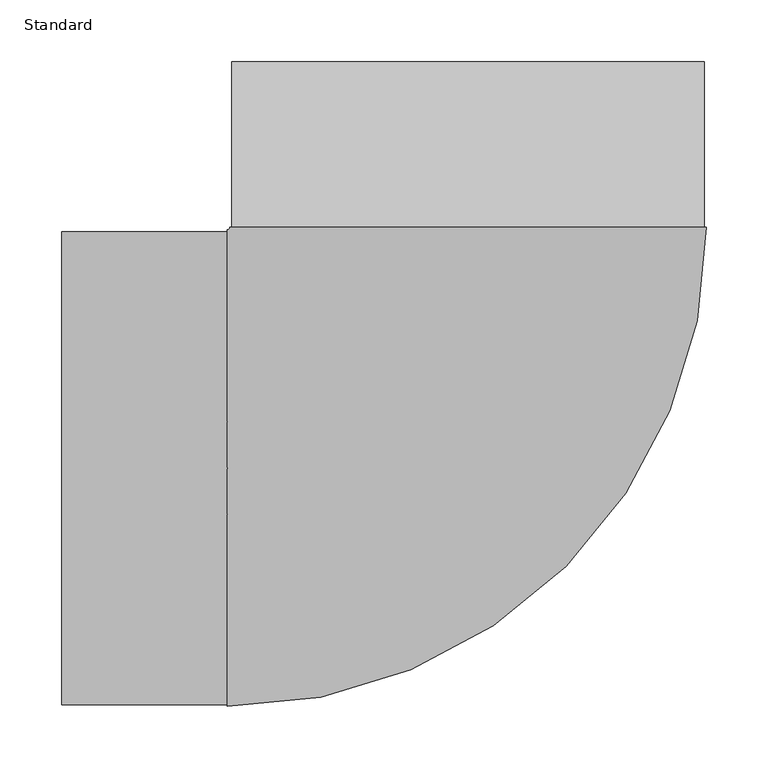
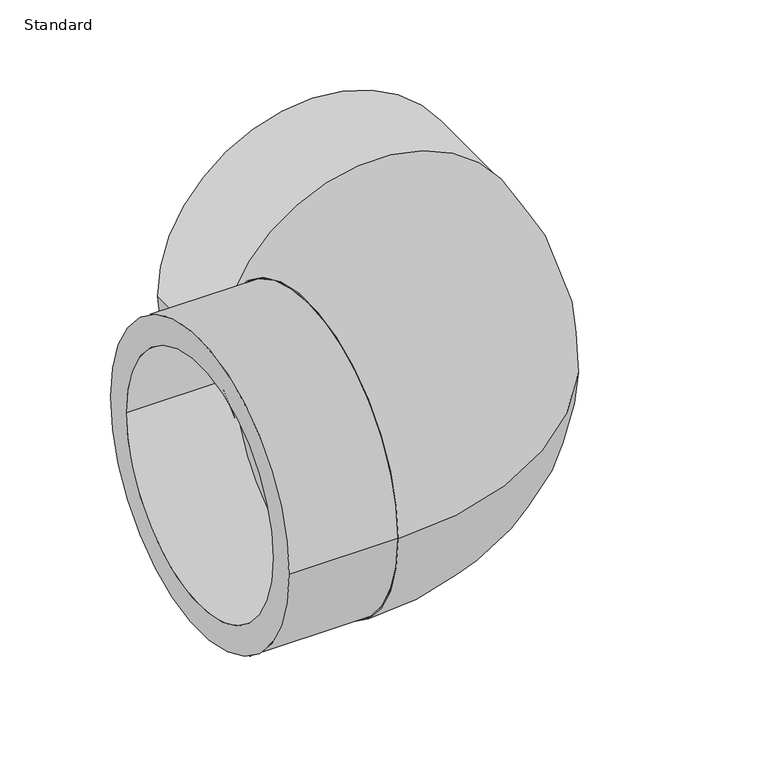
"""IFC4 building model written with IfcOpenShell, lengths in millimetres: pipe fitting geometry, EGB_VASEN_ PPR_Codo a tope 90 WXRB200_Codo a tope 45 WXRB220 : Standard."""

import ifcopenshell
import ifcopenshell.guid

model = None  # the IFC model being written
_history = None  # IfcOwnerHistory: only IFC2X3 demands one
_inside = {}  # id of a spatial element -> (the spatial element, [elements in it])
_under = {}  # id of a project, library or spatial element -> (it, [spatial elements below it])
_declared = {}  # id of a project -> (the project, [libraries it declares])
_typed = {}  # id of a type object -> (the type object, [elements of that type])
_made_of = {}  # id of a material, layer set ... -> (it, [elements and type objects made of it])


def new_model(schema):
    """Start an empty IFC model of exactly this schema.

    Asked for "IFC4X3", IfcOpenShell would pick the latest addendum, in which some entities
    have other attributes; the version numbers below select the first issue.
    IFC2X3 requires an IfcOwnerHistory on every rooted entity: one is made here for all.
    """
    global model, _history
    if schema == "IFC4X3":
        model = ifcopenshell.file(schema_version=(4, 3, 0, 0))
    else:
        model = ifcopenshell.file(schema=schema)
    _inside.clear()
    _under.clear()
    _declared.clear()
    _typed.clear()
    _made_of.clear()
    _history = None
    if model.schema == "IFC2X3":
        org = make("IfcOrganization", Name="unknown")
        user = make(
            "IfcPersonAndOrganization",
            ThePerson=make("IfcPerson", FamilyName="unknown"),
            TheOrganization=org,
        )
        app = make(
            "IfcApplication",
            ApplicationDeveloper=org,
            Version="unknown",
            ApplicationFullName="unknown",
            ApplicationIdentifier="unknown",
        )
        _history = make(
            "IfcOwnerHistory",
            OwningUser=user,
            OwningApplication=app,
            ChangeAction="ADDED",
            CreationDate=0,
        )
    return model


def make(cls, **values):
    """One entity of the class cls with the attributes given. An attribute that is None is left unset."""
    return model.create_entity(
        cls, **{name: value for name, value in values.items() if value is not None}
    )


def rooted(cls, **values):
    """An entity with a GlobalId (a new one), such as an element, a storey or a relation."""
    return make(cls, GlobalId=ifcopenshell.guid.new(), OwnerHistory=_history, **values)


def si_unit(unit_type, name, prefix=None):
    """IfcSIUnit, for example si_unit("LENGTHUNIT", "METRE", prefix="MILLI")."""
    return make("IfcSIUnit", UnitType=unit_type, Prefix=prefix, Name=name)


def assignment(units):
    """IfcUnitAssignment: the units of a project."""
    return None if units is None else make("IfcUnitAssignment", Units=units)


def point(xyz):
    """IfcCartesianPoint."""
    return None if xyz is None else make("IfcCartesianPoint", Coordinates=xyz)


def direction(xyz):
    """IfcDirection."""
    return None if xyz is None else make("IfcDirection", DirectionRatios=xyz)


def frame(location, z_axis=None, x_axis=None):
    """IfcAxis2Placement3D, a coordinate frame: its origin and axes. An axis left out is left unset."""
    return make(
        "IfcAxis2Placement3D",
        Location=point(location),
        Axis=direction(z_axis),
        RefDirection=direction(x_axis),
    )


def origin():
    """The frame at (0, 0, 0) with its axes left unset."""
    return frame((0.0, 0.0, 0.0))


def place(relative_to, where):
    """IfcLocalPlacement: puts the frame where relative to a parent placement (None: the world)."""
    return make(
        "IfcLocalPlacement", PlacementRelTo=relative_to, RelativePlacement=where
    )


def context(
    kind, dimensions, precision=None, world=None, true_north=None, identifier=None
):
    """IfcGeometricRepresentationContext, for example the 3D "Model" context."""
    return make(
        "IfcGeometricRepresentationContext",
        ContextIdentifier=identifier,
        ContextType=kind,
        CoordinateSpaceDimension=dimensions,
        Precision=precision,
        WorldCoordinateSystem=world,
        TrueNorth=true_north,
    )


def project(units=None, contexts=None):
    """IfcProject with its units and contexts."""
    return rooted(
        "IfcProject",
        Name="project",
        RepresentationContexts=contexts,
        UnitsInContext=assignment(units),
    )


def spatial(cls, under=None, at=None, **own):
    """A site, building, storey or space (cls), placed at a placement, below another one or the project."""
    s = rooted(cls, ObjectPlacement=at, **own)
    if under is not None:
        _under.setdefault(under.id(), (under, []))[1].append(s)
    return s


def polyline(points):
    """IfcPolyline through the points."""
    return make("IfcPolyline", Points=[point(p) for p in points])


def circle_curve(where, radius):
    """IfcCircle in the frame where."""
    return make("IfcCircle", Position=where, Radius=radius)


def ellipse_curve(where, semi_axis1, semi_axis2):
    """IfcEllipse in the frame where."""
    return make(
        "IfcEllipse", Position=where, SemiAxis1=semi_axis1, SemiAxis2=semi_axis2
    )


def trimmed(basis, trim1, trim2, sense, master):
    """IfcTrimmedCurve: the piece of a basis curve between two trims."""
    return make(
        "IfcTrimmedCurve",
        BasisCurve=basis,
        Trim1=trim1,
        Trim2=trim2,
        SenseAgreement=sense,
        MasterRepresentation=master,
    )


def shape(context_of_items, identifier, shape_type, items):
    """IfcShapeRepresentation: the items that make up one representation, for example the "Body"."""
    return make(
        "IfcShapeRepresentation",
        ContextOfItems=context_of_items,
        RepresentationIdentifier=identifier,
        RepresentationType=shape_type,
        Items=items,
    )


def source(mapping_origin, context_of_items, identifier, shape_type, items):
    """IfcRepresentationMap: a shape defined once, which mapped items show again and again."""
    return make(
        "IfcRepresentationMap",
        MappingOrigin=mapping_origin,
        MappedRepresentation=shape(context_of_items, identifier, shape_type, items),
    )


def transform(
    local_origin,
    x_axis=None,
    y_axis=None,
    z_axis=None,
    scale=None,
    scale2=None,
    scale3=None,
    uniform=True,
):
    """IfcCartesianTransformationOperator3D, or its non-uniform kind. x_axis, y_axis, z_axis: its Axis1, 2, 3."""
    if uniform:
        return make(
            "IfcCartesianTransformationOperator3D",
            Axis1=direction(x_axis),
            Axis2=direction(y_axis),
            LocalOrigin=point(local_origin),
            Scale=scale,
            Axis3=direction(z_axis),
        )
    return make(
        "IfcCartesianTransformationOperator3DnonUniform",
        Axis1=direction(x_axis),
        Axis2=direction(y_axis),
        LocalOrigin=point(local_origin),
        Scale=scale,
        Axis3=direction(z_axis),
        Scale2=scale2,
        Scale3=scale3,
    )


def mapped(mapping_source, mapping_target):
    """IfcMappedItem: shows the shape of a source again, moved by a transform."""
    return make(
        "IfcMappedItem", MappingSource=mapping_source, MappingTarget=mapping_target
    )


def made_of(thing, what):
    """Note that an element or type object is made of a material, layer set ...; save() writes the relation."""
    if what is not None:
        _made_of.setdefault(what.id(), (what, []))[1].append(thing)
    return thing


def element(
    cls,
    number,
    at=None,
    inside=None,
    cuts=None,
    type_object=None,
    material=None,
    context=None,
    identifier="Body",
    shape_type=None,
    held_by="IfcProductDefinitionShape",
    body=None,
    shapes=None,
    **own,
):
    """One element of the class cls, such as IfcWall. Its Tag is "e" and its number.

    at: its placement. inside: the storey or other place that contains it. cuts: it is an
    opening in that element (IfcRelVoidsElement). A single representation is given by context,
    identifier, shape_type and body (its items); several are given by shapes. held_by: the class
    of the entity that holds the representations. save() writes the other relations.
    """
    e = rooted(cls, Tag="e%d" % number, ObjectPlacement=at, **own)
    if body is not None:
        shapes = [shape(context, identifier, shape_type, body)]
    if shapes is not None:
        e.Representation = make(held_by, Representations=shapes)
    if inside is not None:
        _inside.setdefault(inside.id(), (inside, []))[1].append(e)
    if cuts is not None:
        rooted(
            "IfcRelVoidsElement", RelatingBuildingElement=cuts, RelatedOpeningElement=e
        )
    if type_object is not None:
        _typed.setdefault(type_object.id(), (type_object, []))[1].append(e)
    return made_of(e, material)


def aggregate(whole, parts):
    """IfcRelAggregates: a whole, such as a stair, and the parts it consists of."""
    return rooted("IfcRelAggregates", RelatingObject=whole, RelatedObjects=parts)


def save(model, path):
    """Write the relations noted so far, then the file.

    IfcRelAggregates (storeys below a building ...), IfcRelContainedInSpatialStructure (elements
    in a storey), IfcRelDefinesByType, IfcRelAssociatesMaterial and IfcRelDeclares: one each for
    every whole, place, type object, material and project.
    """
    for whole, parts in _under.values():
        aggregate(whole, parts)
    for where, things in _inside.values():
        rooted(
            "IfcRelContainedInSpatialStructure",
            RelatedElements=things,
            RelatingStructure=where,
        )
    for kind, things in _typed.values():
        rooted("IfcRelDefinesByType", RelatedObjects=things, RelatingType=kind)
    for what, things in _made_of.values():
        rooted("IfcRelAssociatesMaterial", RelatedObjects=things, RelatingMaterial=what)
    for by, libraries in _declared.values():
        rooted("IfcRelDeclares", RelatingContext=by, RelatedDefinitions=libraries)
    model.write(path)


def plane_surface(at):
    """IfcPlane: the flat surface through the origin of the frame at, square to its z axis."""
    return make("IfcPlane", Position=at)


def cylinder_surface(at, radius):
    """IfcCylindricalSurface: all points at the distance radius from the z axis of the frame at."""
    return make("IfcCylindricalSurface", Position=at, Radius=radius)


def revolved_surface(curve, axis_point, axis_direction):
    """IfcSurfaceOfRevolution: the curve turned about the line through axis_point along axis_direction."""
    return make(
        "IfcSurfaceOfRevolution",
        SweptCurve=make("IfcArbitraryOpenProfileDef", ProfileType="CURVE", Curve=curve),
        AxisPosition=make("IfcAxis1Placement", Location=point(axis_point), Axis=direction(axis_direction)),
    )


def advanced_brep(points, edges, surfaces, faces):
    """IfcAdvancedBrep: a solid bounded by faces that lie on surfaces and meet in shared edges.

    An edge is (start, end): straight between two places in points (the first is 0);
    or (start, end, curve); or (start, end, curve, False) where it runs against its curve.
    A face is (place in surfaces, loops), or (place, loops, False) where it looks against
    its surface's normal. A loop lists edges by number (the first is 1), with a minus sign
    where the edge is run from its end to its start. The first loop is the outer one.
    """
    corners = [point(p) for p in points]
    vertices = [make("IfcVertexPoint", VertexGeometry=c) for c in corners]
    made = []
    for start, end, *more in edges:
        made.append(
            make(
                "IfcEdgeCurve",
                EdgeStart=vertices[start],
                EdgeEnd=vertices[end],
                EdgeGeometry=more[0] if more else make("IfcPolyline", Points=[corners[start], corners[end]]),
                SameSense=more[1] if len(more) > 1 else True,
            )
        )
    hull = []
    for where, loops, *sense in faces:
        bounds = []
        for j, loop in enumerate(loops):
            ring = [make("IfcOrientedEdge", EdgeElement=made[abs(k) - 1], Orientation=k > 0) for k in loop]
            bounds.append(
                make(
                    "IfcFaceOuterBound" if j == 0 else "IfcFaceBound",
                    Bound=make("IfcEdgeLoop", EdgeList=ring),
                    Orientation=True,
                )
            )
        hull.append(make("IfcAdvancedFace", Bounds=bounds, FaceSurface=surfaces[where], SameSense=sense[0] if sense else True))
    return make("IfcAdvancedBrep", Outer=make("IfcClosedShell", CfsFaces=hull))


def standard_4de2b88c(model_context):
    return source(origin(), model_context, "Body", "AdvancedBrep", [
        advanced_brep(
        [(-330.0, -192.0, 0.0), (-330.0, 192.0, 0.0), (-330.0, -157.5, 0.0), (-330.0, 157.5, 0.0), (-195.5, -192.0, 0.0), (-195.5, 192.0, 0.0), (-195.5, -157.5, 0.0), (-195.5, 157.5, 0.0), (-195.5, -193.5, 0.0), (-195.5, 193.5, 0.0), (193.5, 195.5, 0.0), (-193.5, 195.5, 0.0), (192.0, 195.5, 0.0), (-192.0, 195.5, 0.0), (157.5, 195.5, 0.0), (-157.5, 195.5, 0.0), (192.0, 330.0, 0.0), (-192.0, 330.0, 0.0), (157.5, 330.0, 0.0), (-157.5, 330.0, 0.0)],
        [
            (0, 1, circle_curve(frame((-330.0, 0.0, 0.0), z_axis=(-1.0, 0.0, 0.0), x_axis=(0.0, 1.0, 0.0)), 192.0)),
            (1, 0, circle_curve(frame((-330.0, 0.0, 0.0), z_axis=(-1.0, 0.0, 0.0), x_axis=(0.0, 1.0, 0.0)), 192.0)),
            (2, 3, circle_curve(frame((-330.0, 0.0, 0.0), z_axis=(1.0, 0.0, 0.0), x_axis=(0.0, 1.0, 0.0)), 157.5)),
            (3, 2, circle_curve(frame((-330.0, 0.0, 0.0), z_axis=(1.0, 0.0, 0.0), x_axis=(0.0, 1.0, 0.0)), 157.5)),
            (0, 4),
            (4, 5, circle_curve(frame((-195.5, 0.0, 0.0), z_axis=(-1.0, 0.0, 0.0), x_axis=(0.0, 1.0, 0.0)), 192.0)),
            (5, 1),
            (5, 4, circle_curve(frame((-195.5, 0.0, 0.0), z_axis=(-1.0, 0.0, 0.0), x_axis=(0.0, 1.0, 0.0)), 192.0)),
            (2, 6),
            (6, 7, circle_curve(frame((-195.5, 0.0, 0.0), z_axis=(1.0, 0.0, 0.0), x_axis=(0.0, 1.0, 0.0)), 157.5)),
            (7, 3),
            (7, 6, circle_curve(frame((-195.5, 0.0, 0.0), z_axis=(1.0, 0.0, 0.0), x_axis=(0.0, 1.0, 0.0)), 157.5)),
            (8, 9, circle_curve(frame((-195.5, 0.0, 0.0), z_axis=(-1.0, 0.0, 0.0), x_axis=(0.0, 1.0, 0.0)), 193.5)),
            (9, 8, circle_curve(frame((-195.5, 0.0, 0.0), z_axis=(-1.0, 0.0, 0.0), x_axis=(0.0, 1.0, 0.0)), 193.5)),
            (10, 11, circle_curve(frame((0.0, 195.5, 0.0), z_axis=(0.0, 1.0, 0.0), x_axis=(-1.0, 0.0, 0.0)), 193.5)),
            (11, 10, circle_curve(frame((0.0, 195.5, 0.0), z_axis=(0.0, 1.0, 0.0), x_axis=(-1.0, 0.0, 0.0)), 193.5)),
            (12, 13, circle_curve(frame((0.0, 195.5, 0.0), z_axis=(0.0, -1.0, 0.0), x_axis=(-1.0, 0.0, 0.0)), 192.0)),
            (13, 12, circle_curve(frame((0.0, 195.5, 0.0), z_axis=(0.0, -1.0, 0.0), x_axis=(-1.0, 0.0, 0.0)), 192.0)),
            (14, 15, circle_curve(frame((0.0, 195.5, 0.0), z_axis=(0.0, 1.0, 0.0), x_axis=(-1.0, 0.0, 0.0)), 157.5)),
            (15, 14, circle_curve(frame((0.0, 195.5, 0.0), z_axis=(0.0, 1.0, 0.0), x_axis=(-1.0, 0.0, 0.0)), 157.5)),
            (8, 10, circle_curve(frame((-195.5, 195.5, 0.0), z_axis=(0.0, 0.0, 1.0), x_axis=(0.0, -1.0, 0.0)), 389.0)),
            (11, 9, circle_curve(frame((-195.5, 195.5, 0.0), z_axis=(0.0, 0.0, -1.0), x_axis=(0.0, -1.0, 0.0)), 2.0)),
            (16, 17, circle_curve(frame((0.0, 330.0, 0.0), z_axis=(0.0, 1.0, 0.0), x_axis=(-1.0, 0.0, 0.0)), 192.0)),
            (17, 16, circle_curve(frame((0.0, 330.0, 0.0), z_axis=(0.0, 1.0, 0.0), x_axis=(-1.0, 0.0, 0.0)), 192.0)),
            (18, 19, circle_curve(frame((0.0, 330.0, 0.0), z_axis=(0.0, -1.0, 0.0), x_axis=(-1.0, 0.0, 0.0)), 157.5)),
            (19, 18, circle_curve(frame((0.0, 330.0, 0.0), z_axis=(0.0, -1.0, 0.0), x_axis=(-1.0, 0.0, 0.0)), 157.5)),
            (17, 13),
            (12, 16),
            (19, 15),
            (14, 18),
        ],
        [
            plane_surface(frame((-330.0, 0.0, 0.0), z_axis=(-1.0, 0.0, 0.0), x_axis=(0.0, 0.0, 1.0))),
            cylinder_surface(frame((-330.0, 0.0, 0.0), z_axis=(-1.0, 0.0, 0.0), x_axis=(0.0, 1.0, 0.0)), 192.0),
            revolved_surface(polyline([(-195.5, 157.5, 0.0), (-330.0, 157.5, 0.0)]), (-330.0, 0.0, 0.0), (1.0, 0.0, 0.0)),
            plane_surface(frame((-195.5, 0.0, 0.0), z_axis=(-1.0, 0.0, 0.0), x_axis=(0.0, 0.0, 1.0))),
            plane_surface(frame((0.0, 195.5, 0.0), z_axis=(0.0, 1.0, 0.0), x_axis=(0.0, 0.0, 1.0))),
            revolved_surface(trimmed(ellipse_curve(frame((-195.5, 0.0, 0.0), z_axis=(-1.0, 0.0, 0.0), x_axis=(0.0, 1.0, 0.0)), 193.5, 193.5), [point((-195.5, -193.5, 0.0))], [point((-195.5, 193.5, 0.0))], True, "CARTESIAN"), (-195.5, 195.5, 0.0), (0.0, 0.0, 1.0)),
            revolved_surface(trimmed(ellipse_curve(frame((-195.5, 0.0, 0.0), z_axis=(-1.0, 0.0, 0.0), x_axis=(0.0, 1.0, 0.0)), 193.5, 193.5), [point((-195.5, 193.5, 0.0))], [point((-195.5, -193.5, 0.0))], True, "CARTESIAN"), (-195.5, 195.5, 0.0), (0.0, 0.0, 1.0)),
            plane_surface(frame((0.0, 330.0, 0.0), z_axis=(0.0, 1.0, 0.0), x_axis=(0.0, 0.0, 1.0))),
            cylinder_surface(frame((0.0, 195.5, 0.0), z_axis=(0.0, -1.0, 0.0), x_axis=(-1.0, 0.0, 0.0)), 192.0),
            revolved_surface(polyline([(-157.5, 330.0, 0.0), (-157.5, 195.5, 0.0)]), (0.0, 195.5, 0.0), (0.0, 1.0, 0.0)),
        ],
        [
            (0, [[1, 2], [3, 4]]),
            (1, [[-1, 5, 6, 7]]),
            (1, [[-2, -7, 8, -5]]),
            (2, [[-3, 9, 10, 11]]),
            (2, [[-4, -11, 12, -9]]),
            (3, [[-10, -12]]),
            (3, [[13, 14], [-6, -8]]),
            (4, [[15, 16], [17, 18]]),
            (4, [[19, 20]]),
            (5, [[-13, 21, -16, 22]]),
            (6, [[-14, -22, -15, -21]]),
            (7, [[23, 24], [25, 26]]),
            (8, [[-24, 27, -17, 28]]),
            (8, [[-23, -28, -18, -27]]),
            (9, [[-26, 29, -19, 30]]),
            (9, [[-25, -30, -20, -29]]),
        ],
    ),
    ])


if __name__ == "__main__":
    model = new_model("IFC4")
    model_context = context("Model", 3, world=origin())
    ifc_project = project(units=[si_unit("LENGTHUNIT", "METRE", prefix="MILLI")], contexts=[model_context])
    site = spatial("IfcSite", under=ifc_project)
    building = spatial("IfcBuilding", under=site)
    placement = place(None, origin())
    standard_shape = standard_4de2b88c(model_context)
    element("IfcPipeFitting", 1, ObjectType="EGB_VASEN_ PPR_Codo a tope 90 WXRB200_Codo a tope 45 WXRB220 : Standard", at=placement, inside=building, context=model_context, shape_type="MappedRepresentation", body=[
        mapped(standard_shape, transform((0.0, 0.0, 0.0), x_axis=(1.0, 0.0, 0.0), y_axis=(0.0, 1.0, 0.0), z_axis=(0.0, 0.0, 1.0))),
    ])
    save(model, "model.ifc")
